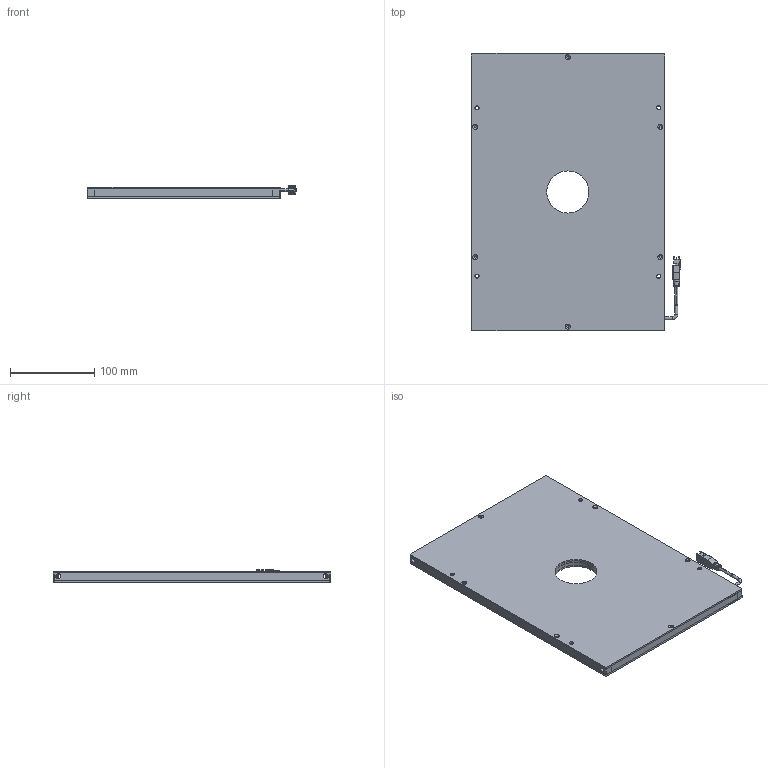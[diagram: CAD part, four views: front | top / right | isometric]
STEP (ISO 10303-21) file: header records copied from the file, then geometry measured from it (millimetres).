
FILE_DESCRIPTION (( 'STEP AP203' ), '1' );
FILE_NAME ('CRT-KFLC290190Y50-¼òÒ×3DÍ¼.STEP', '2021-11-30T01:34:28', ( 'Admin' ), ( '' ), 'SwSTEP 2.0', 'SolidWorks 2018', '' );
FILE_SCHEMA (( 'CONFIG_CONTROL_DESIGN' ));
Length unit declared in the file: millimetre
Products named in the file (1): CRT-KFLC290190Y50-潠眢3D芞
Bounding box: 249.45 x 330 x 14.85 mm (x, y, z)
Surface area: 381323.2 mm2 (no closed solid volume)
Topology: 0 solids, 14 shells, 258 faces, 887 edges, 621 vertices
Faces by surface type: plane 140, cylinder 99, cone 15, bspline 4
Entity records: 10007 total; most frequent: CARTESIAN_POINT 2300, DIRECTION 1607, ORIENTED_EDGE 1387, EDGE_CURVE 887, VERTEX_POINT 621, VECTOR 575, LINE 575, AXIS2_PLACEMENT_3D 516
